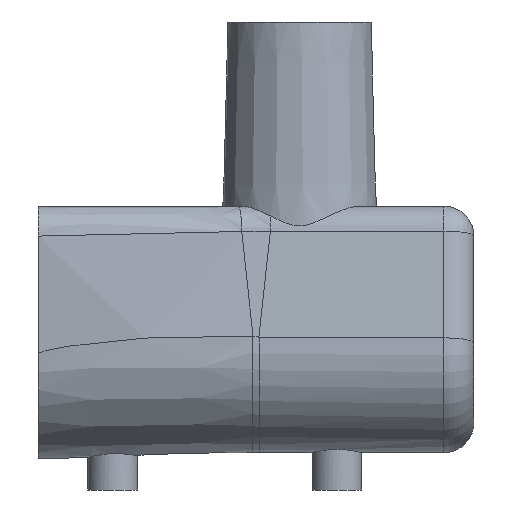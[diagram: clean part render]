
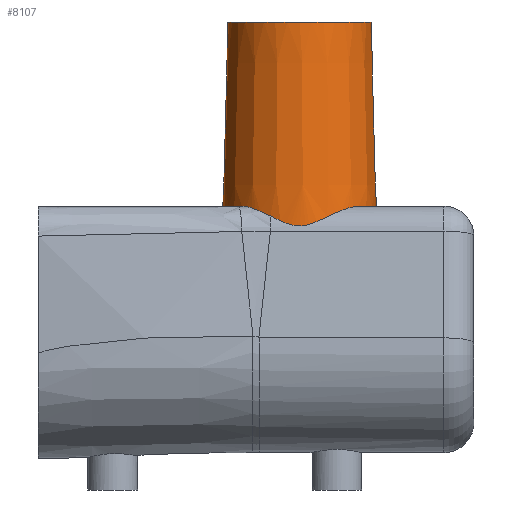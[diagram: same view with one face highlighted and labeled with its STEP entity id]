
A CAD part, left-side view. The second image highlights one B-rep face of the part: STEP entity #8107.
In plain terms, the highlighted conical face has half-angle 1.5 degrees and reference radius 2.9 mm.
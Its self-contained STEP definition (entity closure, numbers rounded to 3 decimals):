
#432=CONICAL_SURFACE('',#8882,2.9,0.026);
#1396=CIRCLE('',#8883,2.9);
#1397=CIRCLE('',#8884,3.094);
#1398=CIRCLE('',#8885,3.094);
#3649=ORIENTED_EDGE('',*,*,#4939,.T.);
#3650=ORIENTED_EDGE('',*,*,#4940,.F.);
#3651=ORIENTED_EDGE('',*,*,#4941,.F.);
#3652=ORIENTED_EDGE('',*,*,#4942,.F.);
#3653=ORIENTED_EDGE('',*,*,#4943,.F.);
#3654=ORIENTED_EDGE('',*,*,#4944,.F.);
#3655=ORIENTED_EDGE('',*,*,#4945,.T.);
#4939=EDGE_CURVE('',#5753,#5753,#1396,.T.);
#4940=EDGE_CURVE('',#5754,#5755,#6277,.T.);
#4941=EDGE_CURVE('',#5756,#5754,#1397,.T.);
#4942=EDGE_CURVE('',#5757,#5756,#6278,.T.);
#4943=EDGE_CURVE('',#5758,#5757,#6279,.T.);
#4944=EDGE_CURVE('',#5759,#5758,#1398,.T.);
#4945=EDGE_CURVE('',#5759,#5755,#6280,.T.);
#5753=VERTEX_POINT('',#16440);
#5754=VERTEX_POINT('',#16445);
#5755=VERTEX_POINT('',#16446);
#5756=VERTEX_POINT('',#16448);
#5757=VERTEX_POINT('',#16453);
#5758=VERTEX_POINT('',#16463);
#5759=VERTEX_POINT('',#16465);
#6277=B_SPLINE_CURVE_WITH_KNOTS('',3,(#16441,#16442,#16443,#16444),
 .UNSPECIFIED.,.F.,.F.,(4,4),(0.,0.001),.UNSPECIFIED.);
#6278=B_SPLINE_CURVE_WITH_KNOTS('',3,(#16449,#16450,#16451,#16452),
 .UNSPECIFIED.,.F.,.F.,(4,4),(0.,0.001),.UNSPECIFIED.);
#6279=B_SPLINE_CURVE_WITH_KNOTS('',3,(#16454,#16455,#16456,#16457,#16458,
#16459,#16460,#16461,#16462),.UNSPECIFIED.,.F.,.F.,(4,1,1,1,1,1,4),(0.,
0.001,0.002,0.003,0.003,
0.004,0.004),.UNSPECIFIED.);
#6280=B_SPLINE_CURVE_WITH_KNOTS('',3,(#16466,#16467,#16468,#16469,#16470,
#16471,#16472,#16473,#16474),.UNSPECIFIED.,.F.,.F.,(4,1,1,1,1,1,4),(0.,
0.001,0.002,0.003,0.003,
0.004,0.004),.UNSPECIFIED.);
#6872=EDGE_LOOP('',(#3649));
#6873=EDGE_LOOP('',(#3650,#3651,#3652,#3653,#3654,#3655));
#7486=FACE_BOUND('',#6872,.T.);
#7487=FACE_BOUND('',#6873,.T.);
#8107=ADVANCED_FACE('',(#7486,#7487),#432,.T.);
#8882=AXIS2_PLACEMENT_3D('',#16438,#10667,#10668);
#8883=AXIS2_PLACEMENT_3D('',#16439,#10669,#10670);
#8884=AXIS2_PLACEMENT_3D('',#16447,#10671,#10672);
#8885=AXIS2_PLACEMENT_3D('',#16464,#10673,#10674);
#10667=DIRECTION('',(0.,0.,-1.));
#10668=DIRECTION('',(1.,0.,0.));
#10669=DIRECTION('',(0.,0.,-1.));
#10670=DIRECTION('',(-1.,0.,0.));
#10671=DIRECTION('',(0.,0.,-1.));
#10672=DIRECTION('',(-1.,0.,0.));
#10673=DIRECTION('',(0.,0.,-1.));
#10674=DIRECTION('',(-1.,0.,0.));
#16438=CARTESIAN_POINT('',(-88.2,7.,12.35));
#16439=CARTESIAN_POINT('',(-88.2,7.,12.35));
#16440=CARTESIAN_POINT('',(-91.1,7.,12.35));
#16441=CARTESIAN_POINT('',(-86.155,9.322,4.95));
#16442=CARTESIAN_POINT('',(-85.778,8.99,4.95));
#16443=CARTESIAN_POINT('',(-85.505,8.597,4.754));
#16444=CARTESIAN_POINT('',(-85.327,8.175,4.558));
#16445=CARTESIAN_POINT('',(-86.155,9.322,4.95));
#16446=CARTESIAN_POINT('',(-85.327,8.175,4.558));
#16447=CARTESIAN_POINT('',(-88.2,7.,4.95));
#16448=CARTESIAN_POINT('',(-90.245,9.322,4.95));
#16449=CARTESIAN_POINT('',(-91.073,8.175,4.558));
#16450=CARTESIAN_POINT('',(-90.895,8.598,4.754));
#16451=CARTESIAN_POINT('',(-90.624,8.988,4.95));
#16452=CARTESIAN_POINT('',(-90.245,9.322,4.95));
#16453=CARTESIAN_POINT('',(-91.073,8.175,4.558));
#16454=CARTESIAN_POINT('',(-90.186,4.628,4.95));
#16455=CARTESIAN_POINT('',(-90.452,4.85,4.95));
#16456=CARTESIAN_POINT('',(-90.893,5.369,4.782));
#16457=CARTESIAN_POINT('',(-91.2,6.091,4.429));
#16458=CARTESIAN_POINT('',(-91.316,6.719,4.159));
#16459=CARTESIAN_POINT('',(-91.319,7.252,4.15));
#16460=CARTESIAN_POINT('',(-91.235,7.73,4.351));
#16461=CARTESIAN_POINT('',(-91.135,8.028,4.49));
#16462=CARTESIAN_POINT('',(-91.073,8.175,4.558));
#16463=CARTESIAN_POINT('',(-90.186,4.628,4.95));
#16464=CARTESIAN_POINT('',(-88.2,7.,4.95));
#16465=CARTESIAN_POINT('',(-86.214,4.628,4.95));
#16466=CARTESIAN_POINT('',(-86.214,4.628,4.95));
#16467=CARTESIAN_POINT('',(-85.948,4.85,4.95));
#16468=CARTESIAN_POINT('',(-85.507,5.369,4.782));
#16469=CARTESIAN_POINT('',(-85.2,6.091,4.429));
#16470=CARTESIAN_POINT('',(-85.084,6.719,4.159));
#16471=CARTESIAN_POINT('',(-85.081,7.252,4.15));
#16472=CARTESIAN_POINT('',(-85.165,7.73,4.351));
#16473=CARTESIAN_POINT('',(-85.265,8.028,4.49));
#16474=CARTESIAN_POINT('',(-85.327,8.175,4.558));
